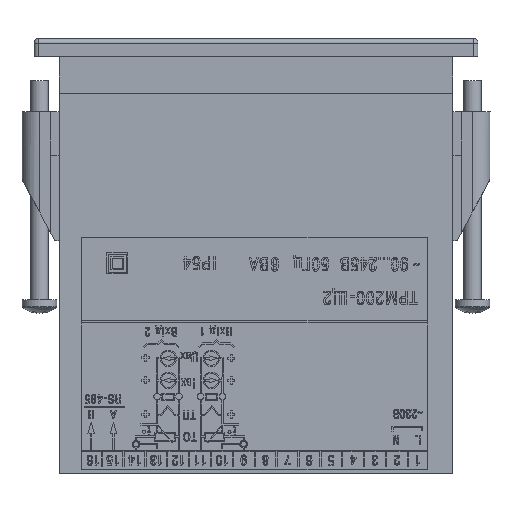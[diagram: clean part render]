
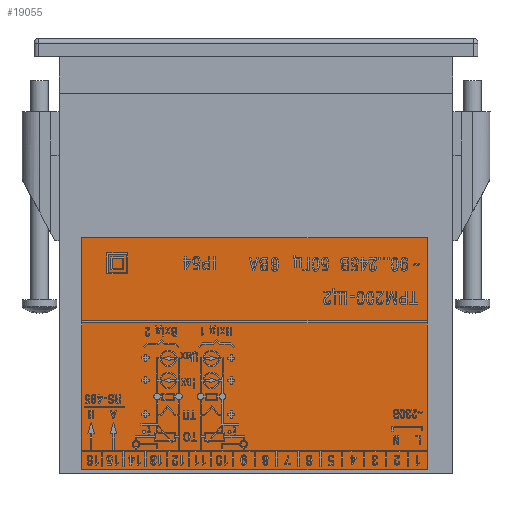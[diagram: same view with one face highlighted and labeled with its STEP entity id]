
A CAD part, front view. The second image highlights one B-rep face of the part: STEP entity #19055.
In plain terms, the highlighted planar face has unit normal (0, -1, 0).
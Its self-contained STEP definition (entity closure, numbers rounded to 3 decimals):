
#1151 = VECTOR ( 'NONE', #48971, 1000. ) ;
#1469 = ORIENTED_EDGE ( 'NONE', *, *, #72854, .T. ) ;
#7802 = CARTESIAN_POINT ( 'NONE',  ( 0., -20.6, 0. ) ) ;
#10146 = VECTOR ( 'NONE', #61943, 1000. ) ;
#12176 = FACE_OUTER_BOUND ( 'NONE', #37251, .T. ) ;
#19022 = VERTEX_POINT ( 'NONE', #100843 ) ;
#19055 = ADVANCED_FACE ( 'NONE', ( #12176 ), #19476, .T. ) ;
#19476 = PLANE ( 'NONE',  #142431 ) ;
#20990 = LINE ( 'NONE', #68679, #101392 ) ;
#22731 = EDGE_CURVE ( 'NONE', #42572, #19022, #103285, .T. ) ;
#30572 = CARTESIAN_POINT ( 'NONE',  ( 39.138, -20.6, -45.5 ) ) ;
#34375 = CARTESIAN_POINT ( 'NONE',  ( -39.862, -20.6, -45.5 ) ) ;
#37251 = EDGE_LOOP ( 'NONE', ( #143985, #38762, #1469, #131709 ) ) ;
#38762 = ORIENTED_EDGE ( 'NONE', *, *, #57376, .T. ) ;
#42572 = VERTEX_POINT ( 'NONE', #63213 ) ;
#43739 = DIRECTION ( 'NONE',  ( 0., 0., -1. ) ) ;
#48971 = DIRECTION ( 'NONE',  ( 0., 0., -1. ) ) ;
#57376 = EDGE_CURVE ( 'NONE', #19022, #133023, #20990, .T. ) ;
#61943 = DIRECTION ( 'NONE',  ( 1., 0., 0. ) ) ;
#63213 = CARTESIAN_POINT ( 'NONE',  ( 39.138, -20.6, -98.5 ) ) ;
#68679 = CARTESIAN_POINT ( 'NONE',  ( -39.862, -20.6, -45.5 ) ) ;
#72804 = LINE ( 'NONE', #135534, #10146 ) ;
#72854 = EDGE_CURVE ( 'NONE', #133023, #100157, #82505, .T. ) ;
#82505 = LINE ( 'NONE', #131956, #1151 ) ;
#84871 = VECTOR ( 'NONE', #150470, 1000. ) ;
#87706 = EDGE_CURVE ( 'NONE', #100157, #42572, #72804, .T. ) ;
#100157 = VERTEX_POINT ( 'NONE', #131820 ) ;
#100843 = CARTESIAN_POINT ( 'NONE',  ( 39.138, -20.6, -45.5 ) ) ;
#101392 = VECTOR ( 'NONE', #114114, 1000. ) ;
#103285 = LINE ( 'NONE', #30572, #84871 ) ;
#114114 = DIRECTION ( 'NONE',  ( -1., 0., 0. ) ) ;
#131709 = ORIENTED_EDGE ( 'NONE', *, *, #87706, .T. ) ;
#131820 = CARTESIAN_POINT ( 'NONE',  ( -39.862, -20.6, -98.5 ) ) ;
#131956 = CARTESIAN_POINT ( 'NONE',  ( -39.862, -20.6, -45.5 ) ) ;
#133023 = VERTEX_POINT ( 'NONE', #34375 ) ;
#135534 = CARTESIAN_POINT ( 'NONE',  ( -39.862, -20.6, -98.5 ) ) ;
#142431 = AXIS2_PLACEMENT_3D ( 'NONE', #7802, #151138, #43739 ) ;
#143985 = ORIENTED_EDGE ( 'NONE', *, *, #22731, .T. ) ;
#150470 = DIRECTION ( 'NONE',  ( 0., 0., 1. ) ) ;
#151138 = DIRECTION ( 'NONE',  ( 0., -1., 0. ) ) ;
